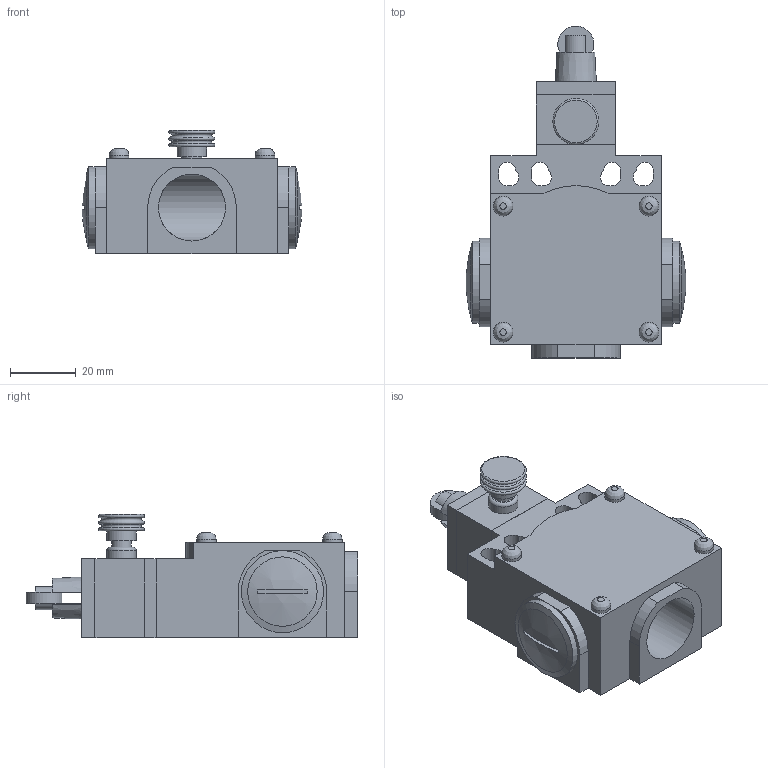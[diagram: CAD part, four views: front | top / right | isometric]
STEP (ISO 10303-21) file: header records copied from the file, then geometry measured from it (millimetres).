
FILE_DESCRIPTION((''),'2;1');
FILE_NAME('D:\Documenti_D\Corrispondenza\Comepi\Catalogo da fare\Modelli Nov 2011\DM e CM\STEP\DM1-R13.iam.step','2011-11-17T12:01:18',(''),(''),'Autodesk Inventor 2010','Autodesk Inventor 2010','');
FILE_SCHEMA(('AUTOMOTIVE_DESIGN { 1 0 10303 214 1 1 1 1 }'));
Length unit declared in the file: millimetre
Products named in the file (8): DM1-R13; DM1; tappo; R13.iam; T12_1; T12_2; R
Assembly tree (8 placements, depth 3):
  DM1-R13
    DM1
      DM1
      tappo  x2
    R13.iam
      T12_1
      T12_2
      R
Bounding box: 66.83 x 101.1 x 37.5 mm (x, y, z)
Volume: 82057.9 mm3; surface area: 27499.5 mm2
Topology: 6 solids, 6 shells, 130 faces, 311 edges, 202 vertices
Faces by surface type: plane 79, cylinder 34, torus 6, cone 5, bspline 4, sphere 2
Full cylindrical faces by diameter (mm): 6 x5, 7 x1, 9 x2, 11 x1, 20.4 x2, 25 x2
Entity records: 3915 total; most frequent: CARTESIAN_POINT 850, DIRECTION 616, ORIENTED_EDGE 530, EDGE_CURVE 265, AXIS2_PLACEMENT_3D 224, VERTEX_POINT 186, VECTOR 168, LINE 168
